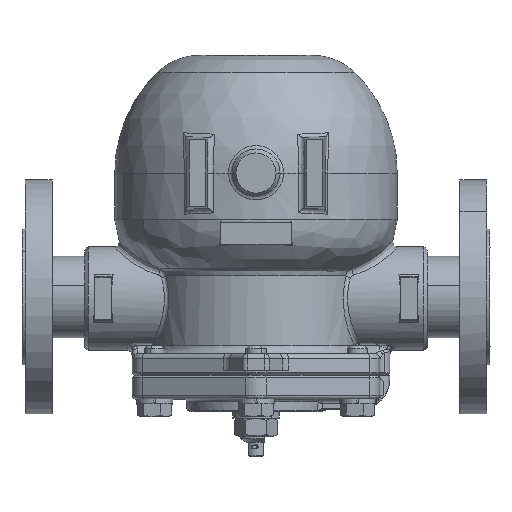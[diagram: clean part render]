
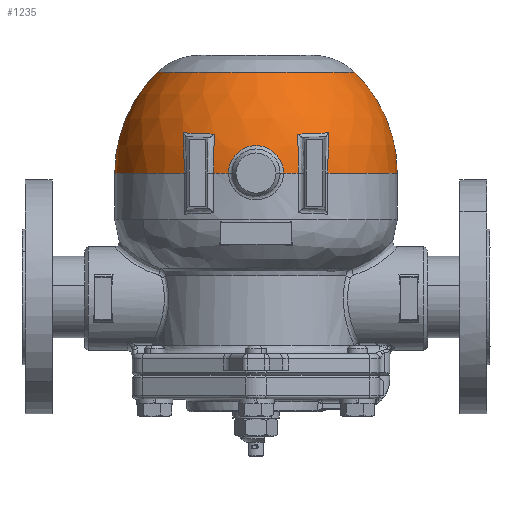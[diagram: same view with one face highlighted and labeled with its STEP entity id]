
A CAD part, top view. The second image highlights one B-rep face of the part: STEP entity #1235.
In plain terms, the highlighted spherical face has radius 84.5 mm.
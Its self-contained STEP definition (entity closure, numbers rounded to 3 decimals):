
#1235=ADVANCED_FACE('',(#7858),#7857,.T.);
#7857=SPHERICAL_SURFACE('',#20825,84.5);
#7858=FACE_OUTER_BOUND('',#20826,.T.);
#20822=CARTESIAN_POINT('',(75.,0.,0.));
#20823=DIRECTION('',(-1.,0.,0.));
#20824=DIRECTION('',(0.,0.009,-1.));
#20825=AXIS2_PLACEMENT_3D('',#20822,#20823,#20824);
#20826=EDGE_LOOP('',(#25195,#25196,#25197,#25198,#25199,#25200,#25201,#25202,#25203,#25204,#25205,#25206,#25207,#25208,#25209,#25210));
#25195=ORIENTED_EDGE('',*,*,#27516,.T.);
#25196=ORIENTED_EDGE('',*,*,#27517,.T.);
#25197=ORIENTED_EDGE('',*,*,#27512,.T.);
#25198=ORIENTED_EDGE('',*,*,#27518,.F.);
#25199=ORIENTED_EDGE('',*,*,#27440,.T.);
#25200=ORIENTED_EDGE('',*,*,#27123,.T.);
#25201=ORIENTED_EDGE('',*,*,#27398,.T.);
#25202=ORIENTED_EDGE('',*,*,#27519,.F.);
#25203=ORIENTED_EDGE('',*,*,#27129,.T.);
#25204=ORIENTED_EDGE('',*,*,#27520,.F.);
#25205=ORIENTED_EDGE('',*,*,#27396,.T.);
#25206=ORIENTED_EDGE('',*,*,#27095,.T.);
#25207=ORIENTED_EDGE('',*,*,#27397,.T.);
#25208=ORIENTED_EDGE('',*,*,#27521,.F.);
#25209=ORIENTED_EDGE('',*,*,#27522,.F.);
#25210=ORIENTED_EDGE('',*,*,#27515,.F.);
#27095=EDGE_CURVE('',#39038,#39031,#39039,.T.);
#27123=EDGE_CURVE('',#39228,#39221,#39229,.T.);
#27129=EDGE_CURVE('',#39269,#39261,#39270,.T.);
#27396=EDGE_CURVE('',#39010,#39038,#40995,.T.);
#27397=EDGE_CURVE('',#39031,#38975,#41001,.T.);
#27398=EDGE_CURVE('',#39221,#39248,#41007,.T.);
#27440=EDGE_CURVE('',#41264,#39228,#41265,.T.);
#27512=EDGE_CURVE('',#41737,#41730,#41738,.T.);
#27515=EDGE_CURVE('',#41751,#41704,#41758,.T.);
#27516=EDGE_CURVE('',#41751,#41764,#41765,.T.);
#27517=EDGE_CURVE('',#41764,#41737,#41771,.T.);
#27518=EDGE_CURVE('',#41264,#41730,#41777,.T.);
#27519=EDGE_CURVE('',#39269,#39248,#41783,.T.);
#27520=EDGE_CURVE('',#39010,#39261,#41789,.T.);
#27521=EDGE_CURVE('',#41795,#38975,#41796,.T.);
#27522=EDGE_CURVE('',#41704,#41795,#41802,.T.);
#38975=VERTEX_POINT('',#52453);
#39010=VERTEX_POINT('',#52475);
#39031=VERTEX_POINT('',#52503);
#39038=VERTEX_POINT('',#52516);
#39039=CIRCLE('',#52520,79.008);
#39221=VERTEX_POINT('',#52652);
#39228=VERTEX_POINT('',#52667);
#39229=CIRCLE('',#52671,79.008);
#39248=VERTEX_POINT('',#52703);
#39261=VERTEX_POINT('',#52711);
#39269=VERTEX_POINT('',#52717);
#39270=CIRCLE('',#52721,16.422);
#40995=CIRCLE('',#54756,82.531);
#41001=CIRCLE('',#54760,68.695);
#41007=CIRCLE('',#54764,82.531);
#41264=VERTEX_POINT('',#55070);
#41265=CIRCLE('',#55074,68.695);
#41704=VERTEX_POINT('',#55391);
#41730=VERTEX_POINT('',#55409);
#41737=VERTEX_POINT('',#55414);
#41738=(BOUNDED_CURVE() B_SPLINE_CURVE(2,(#55415,#55416,#55417),.UNSPECIFIED.,.F.,.F.) B_SPLINE_CURVE_WITH_KNOTS((3,3),(0.,1.),.UNSPECIFIED.) CURVE() GEOMETRIC_REPRESENTATION_ITEM() RATIONAL_B_SPLINE_CURVE((1.,0.922,1.)) REPRESENTATION_ITEM('') );
#41751=VERTEX_POINT('',#55423);
#41758=(BOUNDED_CURVE() B_SPLINE_CURVE(2,(#55428,#55429,#55430),.UNSPECIFIED.,.F.,.F.) B_SPLINE_CURVE_WITH_KNOTS((3,3),(0.,1.),.UNSPECIFIED.) CURVE() GEOMETRIC_REPRESENTATION_ITEM() RATIONAL_B_SPLINE_CURVE((0.75,0.691,0.75)) REPRESENTATION_ITEM('') );
#41764=VERTEX_POINT('',#55431);
#41765=CIRCLE('',#55435,59.138);
#41771=CIRCLE('',#55439,59.138);
#41777=CIRCLE('',#55443,84.5);
#41783=CIRCLE('',#55447,84.5);
#41789=CIRCLE('',#55451,84.5);
#41795=VERTEX_POINT('',#55452);
#41796=CIRCLE('',#55456,84.5);
#41802=CIRCLE('',#55460,84.5);
#52453=CARTESIAN_POINT('',(75.,-72.722,-43.032));
#52475=CARTESIAN_POINT('',(75.,-80.636,-25.26));
#52503=CARTESIAN_POINT('',(99.098,-68.373,-43.412));
#52516=CARTESIAN_POINT('',(98.318,-77.286,-24.967));
#52517=CARTESIAN_POINT('',(104.851,-2.612,0.));
#52518=DIRECTION('',(0.996,-0.087,0.));
#52519=DIRECTION('',(0.083,0.945,0.316));
#52520=AXIS2_PLACEMENT_3D('',#52517,#52518,#52519);
#52652=CARTESIAN_POINT('',(98.318,-77.286,24.967));
#52667=CARTESIAN_POINT('',(99.098,-68.373,43.412));
#52668=CARTESIAN_POINT('',(104.851,-2.612,0.));
#52669=DIRECTION('',(0.996,-0.087,0.));
#52670=DIRECTION('',(0.073,0.832,-0.549));
#52671=AXIS2_PLACEMENT_3D('',#52668,#52669,#52670);
#52703=CARTESIAN_POINT('',(75.,-80.636,25.26));
#52711=CARTESIAN_POINT('',(75.,-82.889,-16.422));
#52717=CARTESIAN_POINT('',(75.,-82.889,16.422));
#52718=CARTESIAN_POINT('',(75.,-82.889,0.));
#52719=DIRECTION('',(0.,1.,0.));
#52720=DIRECTION('',(0.,0.,-1.));
#52721=AXIS2_PLACEMENT_3D('',#52718,#52719,#52720);
#54753=CARTESIAN_POINT('',(75.,1.581,-18.067));
#54754=DIRECTION('',(0.,-0.087,0.996));
#54755=DIRECTION('',(0.,0.996,0.087));
#54756=AXIS2_PLACEMENT_3D('',#54753,#54754,#54755);
#54757=CARTESIAN_POINT('',(75.,-4.289,-49.019));
#54758=DIRECTION('',(0.,-0.087,-0.996));
#54759=DIRECTION('',(-0.351,0.933,-0.082));
#54760=AXIS2_PLACEMENT_3D('',#54757,#54758,#54759);
#54761=CARTESIAN_POINT('',(75.,1.581,18.067));
#54762=DIRECTION('',(0.,-0.087,-0.996));
#54763=DIRECTION('',(-0.283,0.956,-0.084));
#54764=AXIS2_PLACEMENT_3D('',#54761,#54762,#54763);
#55070=CARTESIAN_POINT('',(75.,-72.722,43.032));
#55071=CARTESIAN_POINT('',(75.,-4.289,49.019));
#55072=DIRECTION('',(0.,-0.087,0.996));
#55073=DIRECTION('',(0.,0.996,0.087));
#55074=AXIS2_PLACEMENT_3D('',#55071,#55072,#55073);
#55391=CARTESIAN_POINT('',(75.,0.737,-84.497));
#55409=CARTESIAN_POINT('',(75.,-0.737,84.497));
#55414=CARTESIAN_POINT('',(135.357,-0.516,59.135));
#55415=CARTESIAN_POINT('',(135.357,-0.516,59.135));
#55416=CARTESIAN_POINT('',(110.507,-0.737,84.497));
#55417=CARTESIAN_POINT('',(75.,-0.737,84.497));
#55423=CARTESIAN_POINT('',(135.357,0.516,-59.135));
#55428=CARTESIAN_POINT('',(135.357,0.516,-59.135));
#55429=CARTESIAN_POINT('',(110.507,0.737,-84.497));
#55430=CARTESIAN_POINT('',(75.,0.737,-84.497));
#55431=CARTESIAN_POINT('',(135.357,0.,-59.138));
#55432=CARTESIAN_POINT('',(135.357,0.,0.));
#55433=DIRECTION('',(-1.,0.,0.));
#55434=DIRECTION('',(0.,0.,-1.));
#55435=AXIS2_PLACEMENT_3D('',#55432,#55433,#55434);
#55436=CARTESIAN_POINT('',(135.357,0.,0.));
#55437=DIRECTION('',(-1.,0.,0.));
#55438=DIRECTION('',(0.,0.,-1.));
#55439=AXIS2_PLACEMENT_3D('',#55436,#55437,#55438);
#55440=CARTESIAN_POINT('',(75.,0.,0.));
#55441=DIRECTION('',(-1.,0.,0.));
#55442=DIRECTION('',(0.,0.,-1.));
#55443=AXIS2_PLACEMENT_3D('',#55440,#55441,#55442);
#55444=CARTESIAN_POINT('',(75.,0.,0.));
#55445=DIRECTION('',(-1.,0.,0.));
#55446=DIRECTION('',(0.,0.981,-0.194));
#55447=AXIS2_PLACEMENT_3D('',#55444,#55445,#55446);
#55448=CARTESIAN_POINT('',(75.,0.,0.));
#55449=DIRECTION('',(-1.,0.,0.));
#55450=DIRECTION('',(0.,0.954,0.299));
#55451=AXIS2_PLACEMENT_3D('',#55448,#55449,#55450);
#55452=CARTESIAN_POINT('',(75.,0.,-84.5));
#55453=CARTESIAN_POINT('',(75.,0.,0.));
#55454=DIRECTION('',(-1.,0.,0.));
#55455=DIRECTION('',(0.,-0.861,0.509));
#55456=AXIS2_PLACEMENT_3D('',#55453,#55454,#55455);
#55457=CARTESIAN_POINT('',(75.,0.,0.));
#55458=DIRECTION('',(-1.,0.,0.));
#55459=DIRECTION('',(0.,-0.861,0.509));
#55460=AXIS2_PLACEMENT_3D('',#55457,#55458,#55459);
